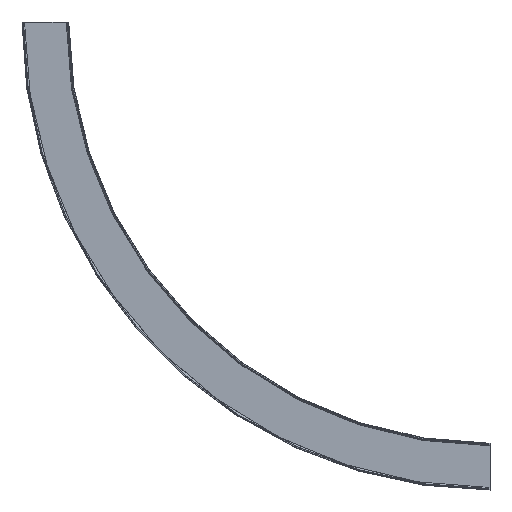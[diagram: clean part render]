
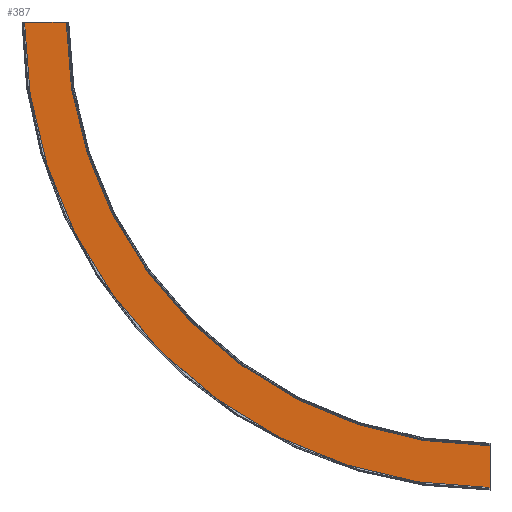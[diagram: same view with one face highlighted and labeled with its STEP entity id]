
A CAD part, front view. The second image highlights one B-rep face of the part: STEP entity #387.
In plain terms, the highlighted planar face has unit normal (0, -1, 0).
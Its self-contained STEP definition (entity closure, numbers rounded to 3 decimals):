
#42 = AXIS2_PLACEMENT_3D ( 'NONE', #565, #989, #109 ) ;
#56 = VERTEX_POINT ( 'NONE', #1546 ) ;
#109 = DIRECTION ( 'NONE',  ( -1., 0., 0. ) ) ;
#115 = CARTESIAN_POINT ( 'NONE',  ( -34.1, 4.039, 0. ) ) ;
#116 = CARTESIAN_POINT ( 'NONE',  ( 34.1, 4.039, 0. ) ) ;
#238 = PLANE ( 'NONE',  #1033 ) ;
#261 = AXIS2_PLACEMENT_3D ( 'NONE', #829, #1451, #1327 ) ;
#294 = ORIENTED_EDGE ( 'NONE', *, *, #1459, .F. ) ;
#301 = LINE ( 'NONE', #816, #1583 ) ;
#337 = DIRECTION ( 'NONE',  ( 0., 1., 0. ) ) ;
#346 = LINE ( 'NONE', #985, #646 ) ;
#387 = ADVANCED_FACE ( 'NONE', ( #1440 ), #238, .F. ) ;
#471 = DIRECTION ( 'NONE',  ( 1., 0., 0. ) ) ;
#565 = CARTESIAN_POINT ( 'NONE',  ( 725., 4.039, 0. ) ) ;
#575 = EDGE_CURVE ( 'NONE', #1405, #56, #301, .T. ) ;
#634 = DIRECTION ( 'NONE',  ( 0., 0., 1. ) ) ;
#646 = VECTOR ( 'NONE', #471, 1000. ) ;
#647 = CARTESIAN_POINT ( 'NONE',  ( 725., 4.039, -759.1 ) ) ;
#816 = CARTESIAN_POINT ( 'NONE',  ( 725., 4.039, -759.1 ) ) ;
#829 = CARTESIAN_POINT ( 'NONE',  ( 725., 4.039, 0. ) ) ;
#833 = VERTEX_POINT ( 'NONE', #1182 ) ;
#874 = EDGE_CURVE ( 'NONE', #833, #1405, #1599, .T. ) ;
#904 = EDGE_LOOP ( 'NONE', ( #294, #1216, #1438, #1548 ) ) ;
#985 = CARTESIAN_POINT ( 'NONE',  ( -34.1, 4.039, 0. ) ) ;
#989 = DIRECTION ( 'NONE',  ( 0., -1., 0. ) ) ;
#1033 = AXIS2_PLACEMENT_3D ( 'NONE', #115, #337, #634 ) ;
#1074 = CIRCLE ( 'NONE', #261, 690.9 ) ;
#1088 = VERTEX_POINT ( 'NONE', #116 ) ;
#1182 = CARTESIAN_POINT ( 'NONE',  ( -34.1, 4.039, 0. ) ) ;
#1190 = DIRECTION ( 'NONE',  ( 0., 0., 1. ) ) ;
#1216 = ORIENTED_EDGE ( 'NONE', *, *, #1537, .F. ) ;
#1327 = DIRECTION ( 'NONE',  ( -1., 0., 0. ) ) ;
#1405 = VERTEX_POINT ( 'NONE', #647 ) ;
#1438 = ORIENTED_EDGE ( 'NONE', *, *, #874, .T. ) ;
#1440 = FACE_OUTER_BOUND ( 'NONE', #904, .T. ) ;
#1451 = DIRECTION ( 'NONE',  ( 0., -1., 0. ) ) ;
#1459 = EDGE_CURVE ( 'NONE', #1088, #56, #1074, .T. ) ;
#1537 = EDGE_CURVE ( 'NONE', #833, #1088, #346, .T. ) ;
#1546 = CARTESIAN_POINT ( 'NONE',  ( 725., 4.039, -690.9 ) ) ;
#1548 = ORIENTED_EDGE ( 'NONE', *, *, #575, .T. ) ;
#1583 = VECTOR ( 'NONE', #1190, 1000. ) ;
#1599 = CIRCLE ( 'NONE', #42, 759.1 ) ;
